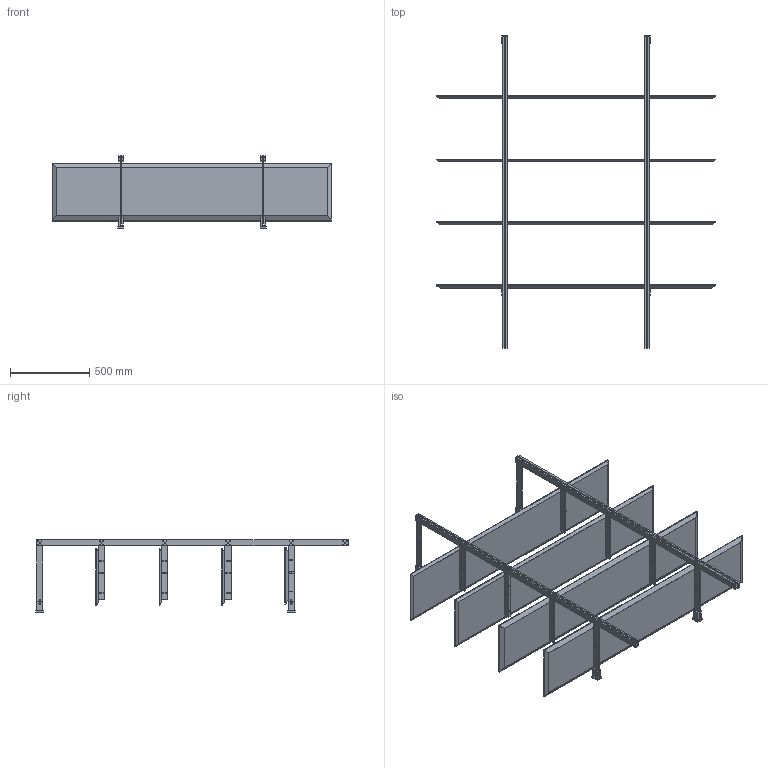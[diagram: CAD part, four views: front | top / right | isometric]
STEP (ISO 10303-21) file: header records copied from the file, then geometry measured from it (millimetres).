
FILE_DESCRIPTION(/* description */ (''),/* implementation_level */ '2;1');
FILE_NAME(/* name */ 'FG50700',/* time_stamp */ '2023-06-12T14:31:51+02:00',/* author */ (''),/* organization */ (''),/* preprocessor_version */ 'ST-DEVELOPER v10',/* originating_system */ '',/* authorisation */ '');
FILE_SCHEMA (('CONFIG_CONTROL_DESIGN'));
Length unit declared in the file: millimetre
Products named in the file (1): 1
Bounding box: 1770 x 1975 x 459.7 mm (x, y, z)
Surface area: 6582750.7 mm2 (no closed solid volume)
Topology: 0 solids, 1172 shells, 1172 faces, 4830 edges, 4622 vertices
Faces by surface type: bspline 810, plane 362
Entity records: 60180 total; most frequent: CARTESIAN_POINT 35732, ORIENTED_EDGE 4622, EDGE_CURVE 4622, VERTEX_POINT 4622, B_SPLINE_CURVE_WITH_KNOTS 2806, EDGE_LOOP 1542, SHELL_BASED_SURFACE_MODEL 1172, OPEN_SHELL 1172
